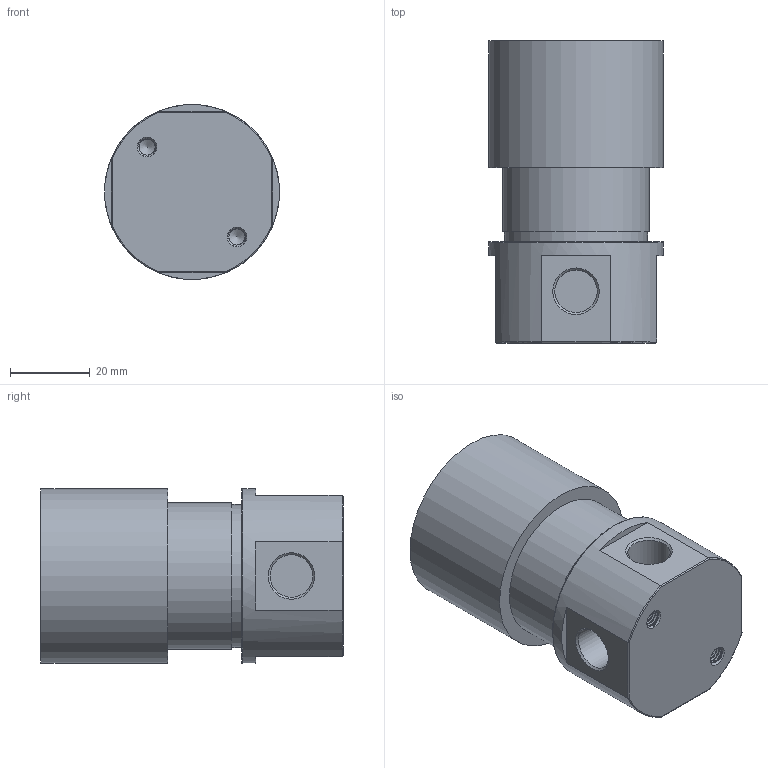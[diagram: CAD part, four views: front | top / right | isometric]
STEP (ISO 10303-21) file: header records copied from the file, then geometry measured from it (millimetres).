
FILE_DESCRIPTION(/* description */ (''),/* implementation_level */ '2;1');
FILE_NAME(/* name */ 'U:/AirCom-Produktdokumentation/Druckregler/RH1/Zeichnungen/CAD-Aircom/3D/RH1-2x.step',/* time_stamp */ '2016-10-18T16:04:31+02:00',/* author */ (''),/* organization */ (''),/* preprocessor_version */ 'ST-DEVELOPER v16.5',/* originating_system */ 'Autodesk Translation Framework v5.2.0.2031',/* authorisation */ '');
FILE_SCHEMA (('AUTOMOTIVE_DESIGN { 1 0 10303 214 3 1 1 }'));
Length unit declared in the file: centimetre
Products named in the file (1): (Nicht gespeichert)
Bounding box: 44 x 76 x 44 mm (x, y, z)
Volume: 100033 mm3; surface area: 16141.8 mm2
Topology: 1 solids, 1 shells, 56 faces, 115 edges, 69 vertices
Faces by surface type: plane 22, cylinder 17, cone 8, torus 5, bspline 4
Full cylindrical faces by diameter (mm): 10.7 x4, 36 x1, 37 x1, 40 x1, 44 x2
Entity records: 4365 total; most frequent: CARTESIAN_POINT 3267, DIRECTION 222, ORIENTED_EDGE 184, AXIS2_PLACEMENT_3D 101, EDGE_CURVE 92, EDGE_LOOP 82, VERTEX_POINT 64, FACE_OUTER_BOUND 56
